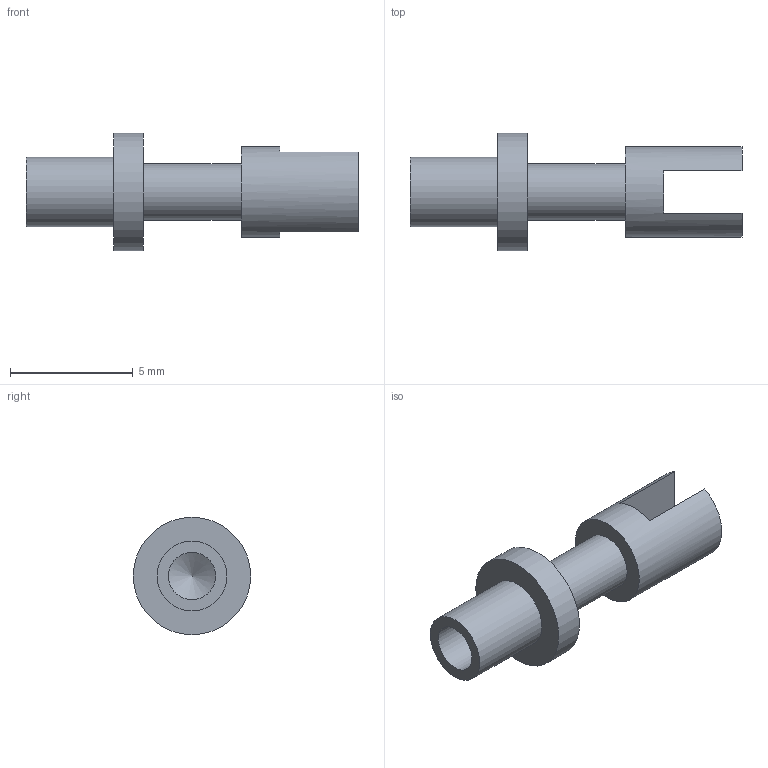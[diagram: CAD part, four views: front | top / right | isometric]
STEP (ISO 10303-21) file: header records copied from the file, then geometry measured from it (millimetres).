
FILE_DESCRIPTION(/* description */ (''),/* implementation_level */ '2;1');
FILE_NAME(/* name */ 'Z:\STEP folder\140-1025-03.ipt.stp',/* time_stamp */ '2016-12-07T10:38:39+00:00',/* author */ ('Paul Karlsons'),/* organization */ (''),/* preprocessor_version */ 'ST-DEVELOPER v15.2',/* originating_system */ 'Autodesk Inventor 2014',/* authorisation */ '');
FILE_SCHEMA (('AUTOMOTIVE_DESIGN { 1 0 10303 214 3 1 1 }'));
Length unit declared in the file: millimetre
Products named in the file (1): 140-1025-03
Bounding box: 13.51 x 4.78 x 4.78 mm (x, y, z)
Volume: 83.8 mm3; surface area: 207.3 mm2
Topology: 1 solids, 1 shells, 15 faces, 29 edges, 19 vertices
Faces by surface type: plane 9, cylinder 5, cone 1
Full cylindrical faces by diameter (mm): 1.93 x1, 2.286 x1, 2.845 x1, 3.683 x1, 4.775 x1
Entity records: 361 total; most frequent: DIRECTION 66, CARTESIAN_POINT 54, ORIENTED_EDGE 42, AXIS2_PLACEMENT_3D 29, EDGE_LOOP 24, EDGE_CURVE 21, VERTEX_POINT 17, ADVANCED_FACE 15
